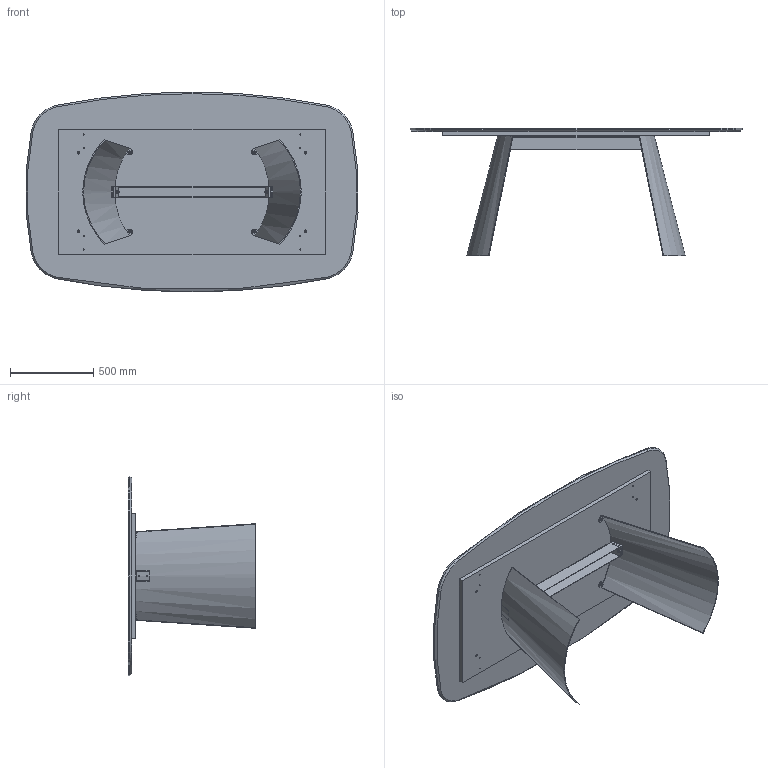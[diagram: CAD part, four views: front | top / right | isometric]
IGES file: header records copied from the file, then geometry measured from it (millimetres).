
Start section: SolidWorks IGES file using analytic representation for surfaces
Global section: file name: Y:\eforma\TECNICO\SOLIDWORKS\E-FORMA\1-TAVOLI\DORIAN\02 parts-rev 01\DN41M.IGS; native system: SolidWorks 2022; preprocessor: SolidWorks 2022; author: eforma.tech; date: 240807.165649; units: millimetre
Bounding box: 1992.14 x 765 x 1200 mm (x, y, z)
Volume: 78934681.7 mm3; surface area: 9359383.7 mm2
Topology: 33 solids, 33 shells, 534 faces, 1278 edges, 795 vertices
Faces by surface type: revolution 314, plane 202, bspline 18
